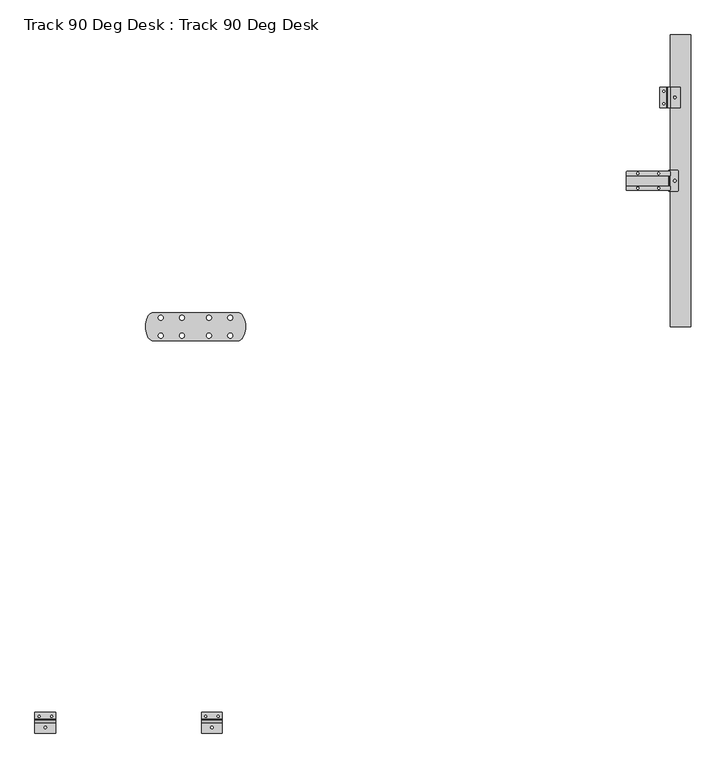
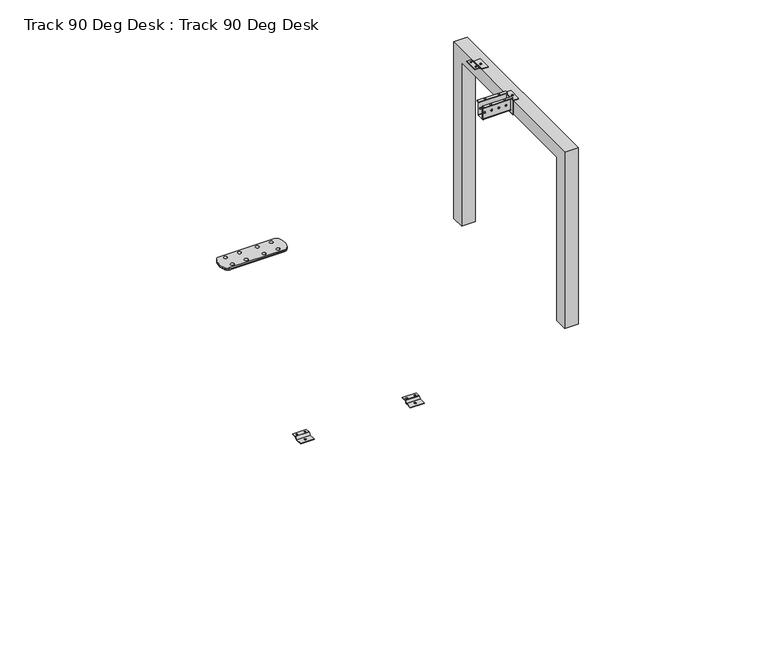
"""IFC4 building model written with IfcOpenShell, lengths in millimetres: furniture geometry, Track 90 Deg Desk : Track 90 Deg Desk."""

from ifc_helpers import new_model, si_unit, point, frame, frame_2d, origin, place, context, project, spatial, polyline, circle_curve, ellipse_curve, trimmed, segment, composite_curve, outline, extrude, source, transform, mapped, element, save
from ifc_brep_helpers import plane_surface, cylinder_surface, revolved_surface, advanced_brep


def track_90_deg_desk_track_90_deg_desk_8e9b47cc(model_context):
    return source(origin(), model_context, "Body", "SolidModel", [
        advanced_brep(
        [(611.732353, -733.9476373, 694.9999998), (623.8216657, -726.2167766, 694.9999998), (623.8216657, -673.7832234, 694.9999998), (611.732353, -666.0523627, 694.9999998), (409.386168, -666.0523627, 694.9999998), (397.2968553, -673.7832234, 694.9999998), (397.2968553, -726.2167766, 694.9999998), (409.386168, -733.9476373, 694.9999998), (433.0592519, -721.4999958, 694.9999998), (421.0592519, -721.4999958, 694.9999998), (433.0592519, -678.5000013, 694.9999998), (421.0592519, -678.5000013, 694.9999998), (484.0084742, -721.4999958, 694.9999998), (472.0084742, -721.4999958, 694.9999998), (484.0084742, -678.5000013, 694.9999998), (472.0084742, -678.5000013, 694.9999998), (549.0084674, -721.4999958, 694.9999998), (537.0084674, -721.4999958, 694.9999998), (549.0084674, -678.5000013, 694.9999998), (537.0084674, -678.5000013, 694.9999998), (600.0084794, -721.4999958, 694.9999998), (588.0084794, -721.4999958, 694.9999998), (600.0084794, -678.5000013, 694.9999998), (588.0084794, -678.5000013, 694.9999998), (619.4412132, -723.8060431, 684.4999866), (611.3816714, -728.9599502, 684.4999866), (409.7368496, -728.9599502, 684.4999866), (401.6773078, -723.8060431, 684.4999866), (401.6773078, -676.1939569, 684.4999866), (409.7368496, -671.0400498, 684.4999866), (611.3816714, -671.0400498, 684.4999866), (619.4412132, -676.1939569, 684.4999866), (433.0592519, -721.4999958, 684.4999866), (421.0592519, -721.4999958, 684.4999866), (433.0592519, -678.5000013, 684.4999866), (421.0592519, -678.5000013, 684.4999866), (484.0084742, -721.4999958, 684.4999866), (472.0084742, -721.4999958, 684.4999866), (484.0084742, -678.5000013, 684.4999866), (472.0084742, -678.5000013, 684.4999866), (549.0084674, -721.4999958, 684.4999866), (537.0084674, -721.4999958, 684.4999866), (549.0084674, -678.5000013, 684.4999866), (537.0084674, -678.5000013, 684.4999866), (600.0084794, -721.4999958, 684.4999866), (588.0084794, -721.4999958, 684.4999866), (600.0084794, -678.5000013, 684.4999866), (588.0084794, -678.5000013, 684.4999866), (611.732353, -733.9476373, 689.4999866), (623.8216657, -726.2167766, 689.4999866), (623.8216657, -673.7832234, 689.4999866), (611.732353, -666.0523627, 689.4999866), (409.386168, -666.0523627, 689.4999866), (397.2968553, -673.7832234, 689.4999866), (397.2968553, -726.2167766, 689.4999866), (409.386168, -733.9476373, 689.4999866)],
        [
            (0, 1, circle_curve(frame((610.6803083, -718.984576, 694.9999998), z_axis=(0.0, 0.0, 1.0), x_axis=(-1.0, 0.0, 0.0)), 15.0)),
            (1, 2, circle_curve(frame((576.1841551, -700.0, 694.9999998), z_axis=(0.0, 0.0, 1.0), x_axis=(-1.0, 0.0, 0.0)), 54.3751027)),
            (2, 3, circle_curve(frame((610.6803083, -681.015424, 694.9999998), z_axis=(0.0, 0.0, 1.0), x_axis=(-1.0, 0.0, 0.0)), 15.0)),
            (3, 4, circle_curve(frame((510.5592605, -2105.0208773, 694.9999998), z_axis=(0.0, 0.0, 1.0), x_axis=(-1.0, 0.0, 0.0)), 1442.5208423)),
            (4, 5, circle_curve(frame((410.4382127, -681.015424, 694.9999998), z_axis=(0.0, 0.0, 1.0), x_axis=(-1.0, 0.0, 0.0)), 15.0)),
            (5, 6, circle_curve(frame((444.9343659, -700.0, 694.9999998), z_axis=(0.0, 0.0, 1.0), x_axis=(-1.0, 0.0, 0.0)), 54.3751027)),
            (6, 7, circle_curve(frame((410.4382127, -718.984576, 694.9999998), z_axis=(0.0, 0.0, 1.0), x_axis=(-1.0, 0.0, 0.0)), 15.0)),
            (7, 0, circle_curve(frame((510.5592605, 705.0208773, 694.9999998), z_axis=(0.0, 0.0, 1.0), x_axis=(-1.0, 0.0, 0.0)), 1442.5208423)),
            (8, 9, circle_curve(frame((427.0592519, -721.4999958, 694.9999998), z_axis=(0.0, 0.0, -1.0), x_axis=(-1.0, 0.0, 0.0)), 6.0)),
            (9, 8, circle_curve(frame((427.0592519, -721.4999958, 694.9999998), z_axis=(0.0, 0.0, -1.0), x_axis=(-1.0, 0.0, 0.0)), 6.0)),
            (10, 11, circle_curve(frame((427.0592519, -678.5000013, 694.9999998), z_axis=(0.0, 0.0, -1.0), x_axis=(-1.0, 0.0, 0.0)), 6.0)),
            (11, 10, circle_curve(frame((427.0592519, -678.5000013, 694.9999998), z_axis=(0.0, 0.0, -1.0), x_axis=(-1.0, 0.0, 0.0)), 6.0)),
            (12, 13, circle_curve(frame((478.0084742, -721.4999958, 694.9999998), z_axis=(0.0, 0.0, -1.0), x_axis=(-1.0, 0.0, 0.0)), 6.0)),
            (13, 12, circle_curve(frame((478.0084742, -721.4999958, 694.9999998), z_axis=(0.0, 0.0, -1.0), x_axis=(-1.0, 0.0, 0.0)), 6.0)),
            (14, 15, circle_curve(frame((478.0084742, -678.5000013, 694.9999998), z_axis=(0.0, 0.0, -1.0), x_axis=(-1.0, 0.0, 0.0)), 6.0)),
            (15, 14, circle_curve(frame((478.0084742, -678.5000013, 694.9999998), z_axis=(0.0, 0.0, -1.0), x_axis=(-1.0, 0.0, 0.0)), 6.0)),
            (16, 17, circle_curve(frame((543.0084674, -721.4999958, 694.9999998), z_axis=(0.0, 0.0, -1.0), x_axis=(-1.0, 0.0, 0.0)), 6.0)),
            (17, 16, circle_curve(frame((543.0084674, -721.4999958, 694.9999998), z_axis=(0.0, 0.0, -1.0), x_axis=(-1.0, 0.0, 0.0)), 6.0)),
            (18, 19, circle_curve(frame((543.0084674, -678.5000013, 694.9999998), z_axis=(0.0, 0.0, -1.0), x_axis=(-1.0, 0.0, 0.0)), 6.0)),
            (19, 18, circle_curve(frame((543.0084674, -678.5000013, 694.9999998), z_axis=(0.0, 0.0, -1.0), x_axis=(-1.0, 0.0, 0.0)), 6.0)),
            (20, 21, circle_curve(frame((594.0084794, -721.4999958, 694.9999998), z_axis=(0.0, 0.0, -1.0), x_axis=(-1.0, 0.0, 0.0)), 6.0)),
            (21, 20, circle_curve(frame((594.0084794, -721.4999958, 694.9999998), z_axis=(0.0, 0.0, -1.0), x_axis=(-1.0, 0.0, 0.0)), 6.0)),
            (22, 23, circle_curve(frame((594.0084794, -678.5000013, 694.9999998), z_axis=(0.0, 0.0, -1.0), x_axis=(-1.0, 0.0, 0.0)), 6.0)),
            (23, 22, circle_curve(frame((594.0084794, -678.5000013, 694.9999998), z_axis=(0.0, 0.0, -1.0), x_axis=(-1.0, 0.0, 0.0)), 6.0)),
            (24, 25, circle_curve(frame((610.6803083, -718.984576, 684.4999866), z_axis=(0.0, 0.0, -1.0), x_axis=(0.0701363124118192, -0.9975374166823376, 0.0)), 10.0)),
            (25, 26, circle_curve(frame((510.5592605, 705.0208773, 684.4999866), z_axis=(0.0, 0.0, -1.0), x_axis=(-0.0701363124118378, -0.9975374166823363, 0.0)), 1437.5208423)),
            (26, 27, circle_curve(frame((410.4382127, -718.984576, 684.4999866), z_axis=(0.0, 0.0, -1.0), x_axis=(-0.8760904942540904, -0.4821467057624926, 0.0)), 10.0)),
            (27, 28, circle_curve(frame((444.9343659, -700.0, 684.4999866), z_axis=(0.0, 0.0, -1.0), x_axis=(-0.8760904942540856, 0.4821467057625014, 0.0)), 49.3751027)),
            (28, 29, circle_curve(frame((410.4382127, -681.015424, 684.4999866), z_axis=(0.0, 0.0, -1.0), x_axis=(-0.07013631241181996, 0.9975374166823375, 0.0)), 10.0)),
            (29, 30, circle_curve(frame((510.5592605, -2105.0208773, 684.4999866), z_axis=(0.0, 0.0, -1.0), x_axis=(0.07013631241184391, 0.997537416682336, 0.0)), 1437.5208423)),
            (30, 31, circle_curve(frame((610.6803083, -681.015424, 684.4999866), z_axis=(0.0, 0.0, -1.0), x_axis=(0.8760904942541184, 0.4821467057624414, 0.0)), 10.0)),
            (31, 24, circle_curve(frame((576.1841551, -700.0, 684.4999866), z_axis=(0.0, 0.0, -1.0), x_axis=(0.8760904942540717, -0.4821467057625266, 0.0)), 49.3751027)),
            (32, 33, circle_curve(frame((427.0592519, -721.4999958, 684.4999866), z_axis=(0.0, 0.0, 1.0), x_axis=(-1.0, 0.0, 0.0)), 6.0)),
            (33, 32, circle_curve(frame((427.0592519, -721.4999958, 684.4999866), z_axis=(0.0, 0.0, 1.0), x_axis=(-1.0, 0.0, 0.0)), 6.0)),
            (34, 35, circle_curve(frame((427.0592519, -678.5000013, 684.4999866), z_axis=(0.0, 0.0, 1.0), x_axis=(-1.0, 0.0, 0.0)), 6.0)),
            (35, 34, circle_curve(frame((427.0592519, -678.5000013, 684.4999866), z_axis=(0.0, 0.0, 1.0), x_axis=(-1.0, 0.0, 0.0)), 6.0)),
            (36, 37, circle_curve(frame((478.0084742, -721.4999958, 684.4999866), z_axis=(0.0, 0.0, 1.0), x_axis=(-1.0, 0.0, 0.0)), 6.0)),
            (37, 36, circle_curve(frame((478.0084742, -721.4999958, 684.4999866), z_axis=(0.0, 0.0, 1.0), x_axis=(-1.0, 0.0, 0.0)), 6.0)),
            (38, 39, circle_curve(frame((478.0084742, -678.5000013, 684.4999866), z_axis=(0.0, 0.0, 1.0), x_axis=(-1.0, 0.0, 0.0)), 6.0)),
            (39, 38, circle_curve(frame((478.0084742, -678.5000013, 684.4999866), z_axis=(0.0, 0.0, 1.0), x_axis=(-1.0, 0.0, 0.0)), 6.0)),
            (40, 41, circle_curve(frame((543.0084674, -721.4999958, 684.4999866), z_axis=(0.0, 0.0, 1.0), x_axis=(-1.0, 0.0, 0.0)), 6.0)),
            (41, 40, circle_curve(frame((543.0084674, -721.4999958, 684.4999866), z_axis=(0.0, 0.0, 1.0), x_axis=(-1.0, 0.0, 0.0)), 6.0)),
            (42, 43, circle_curve(frame((543.0084674, -678.5000013, 684.4999866), z_axis=(0.0, 0.0, 1.0), x_axis=(-1.0, 0.0, 0.0)), 6.0)),
            (43, 42, circle_curve(frame((543.0084674, -678.5000013, 684.4999866), z_axis=(0.0, 0.0, 1.0), x_axis=(-1.0, 0.0, 0.0)), 6.0)),
            (44, 45, circle_curve(frame((594.0084794, -721.4999958, 684.4999866), z_axis=(0.0, 0.0, 1.0), x_axis=(-1.0, 0.0, 0.0)), 6.0)),
            (45, 44, circle_curve(frame((594.0084794, -721.4999958, 684.4999866), z_axis=(0.0, 0.0, 1.0), x_axis=(-1.0, 0.0, 0.0)), 6.0)),
            (46, 47, circle_curve(frame((594.0084794, -678.5000013, 684.4999866), z_axis=(0.0, 0.0, 1.0), x_axis=(-1.0, 0.0, 0.0)), 6.0)),
            (47, 46, circle_curve(frame((594.0084794, -678.5000013, 684.4999866), z_axis=(0.0, 0.0, 1.0), x_axis=(-1.0, 0.0, 0.0)), 6.0)),
            (0, 48),
            (48, 49, circle_curve(frame((610.6803083, -718.984576, 689.4999866), z_axis=(0.0, 0.0, 1.0), x_axis=(-1.0, 0.0, 0.0)), 15.0)),
            (49, 1),
            (49, 50, circle_curve(frame((576.1841551, -700.0, 689.4999866), z_axis=(0.0, 0.0, 1.0), x_axis=(-1.0, 0.0, 0.0)), 54.3751027)),
            (50, 2),
            (50, 51, circle_curve(frame((610.6803083, -681.015424, 689.4999866), z_axis=(0.0, 0.0, 1.0), x_axis=(-1.0, 0.0, 0.0)), 15.0)),
            (51, 3),
            (51, 52, circle_curve(frame((510.5592605, -2105.0208773, 689.4999866), z_axis=(0.0, 0.0, 1.0), x_axis=(-1.0, 0.0, 0.0)), 1442.5208423)),
            (52, 4),
            (52, 53, circle_curve(frame((410.4382127, -681.015424, 689.4999866), z_axis=(0.0, 0.0, 1.0), x_axis=(-1.0, 0.0, 0.0)), 15.0)),
            (53, 5),
            (53, 54, circle_curve(frame((444.9343659, -700.0, 689.4999866), z_axis=(0.0, 0.0, 1.0), x_axis=(-1.0, 0.0, 0.0)), 54.3751027)),
            (54, 6),
            (54, 55, circle_curve(frame((410.4382127, -718.984576, 689.4999866), z_axis=(0.0, 0.0, 1.0), x_axis=(-1.0, 0.0, 0.0)), 15.0)),
            (55, 7),
            (55, 48, circle_curve(frame((510.5592605, 705.0208773, 689.4999866), z_axis=(0.0, 0.0, 1.0), x_axis=(-1.0, 0.0, 0.0)), 1442.5208423)),
            (8, 32),
            (33, 9),
            (10, 34),
            (35, 11),
            (12, 36),
            (37, 13),
            (14, 38),
            (39, 15),
            (16, 40),
            (41, 17),
            (18, 42),
            (43, 19),
            (20, 44),
            (45, 21),
            (22, 46),
            (47, 23),
            (24, 49, circle_curve(frame((619.4412132, -723.8060431, 689.4999866), z_axis=(-0.48214670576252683, -0.8760904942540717, 0.0), x_axis=(0.8760904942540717, -0.48214670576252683, 0.0)), 5.0)),
            (48, 25, circle_curve(frame((611.3816714, -728.9599502, 689.4999866), z_axis=(0.9975374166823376, 0.0701363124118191, 0.0), x_axis=(0.0701363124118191, -0.9975374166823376, 0.0)), 5.0)),
            (31, 50, circle_curve(frame((619.4412132, -676.1939569, 689.4999866), z_axis=(0.4821467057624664, -0.8760904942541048, 0.0), x_axis=(0.8760904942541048, 0.4821467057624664, 0.0)), 5.0)),
            (30, 51, circle_curve(frame((611.3816714, -671.0400498, 689.4999866), z_axis=(0.9975374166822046, -0.07013631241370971, 0.0), x_axis=(0.07013631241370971, 0.9975374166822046, 0.0)), 5.0)),
            (29, 52, circle_curve(frame((409.7368496, -671.0400498, 689.4999866), z_axis=(0.997537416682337, 0.0701363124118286, 0.0), x_axis=(-0.0701363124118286, 0.997537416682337, 0.0)), 5.0)),
            (28, 53, circle_curve(frame((401.6773078, -676.1939569, 689.4999866), z_axis=(0.4821467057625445, 0.8760904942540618, 0.0), x_axis=(-0.8760904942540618, 0.4821467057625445, 0.0)), 5.0)),
            (27, 54, circle_curve(frame((401.6773078, -723.8060431, 689.4999866), z_axis=(-0.48214670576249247, 0.8760904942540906, 0.0), x_axis=(-0.8760904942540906, -0.48214670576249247, 0.0)), 5.0)),
            (26, 55, circle_curve(frame((409.7368496, -728.9599502, 689.4999866), z_axis=(-0.9975374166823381, 0.07013631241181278, 0.0), x_axis=(-0.07013631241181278, -0.9975374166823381, 0.0)), 5.0)),
        ],
        [
            plane_surface(frame((595.6803083, -718.984576, 694.9999998), z_axis=(0.0, 0.0, 1.0), x_axis=(0.0, -1.0, 0.0))),
            plane_surface(frame((595.6803083, -718.984576, 684.4999866), z_axis=(0.0, 0.0, -1.0), x_axis=(0.0, 1.0, 0.0))),
            cylinder_surface(frame((610.6803083, -718.984576, 684.4999866), z_axis=(0.0, 0.0, 1.0), x_axis=(-1.0, 0.0, 0.0)), 15.0),
            cylinder_surface(frame((576.1841551, -700.0, 684.4999866), z_axis=(0.0, 0.0, 1.0), x_axis=(-1.0, 0.0, 0.0)), 54.3751027),
            cylinder_surface(frame((610.6803083, -681.015424, 684.4999866), z_axis=(0.0, 0.0, 1.0), x_axis=(-1.0, 0.0, 0.0)), 15.0),
            cylinder_surface(frame((510.5592605, -2105.0208773, 684.4999866), z_axis=(0.0, 0.0, 1.0), x_axis=(-1.0, 0.0, 0.0)), 1442.5208423),
            cylinder_surface(frame((410.4382127, -681.015424, 684.4999866), z_axis=(0.0, 0.0, 1.0), x_axis=(-1.0, 0.0, 0.0)), 15.0),
            cylinder_surface(frame((444.9343659, -700.0, 684.4999866), z_axis=(0.0, 0.0, 1.0), x_axis=(-1.0, 0.0, 0.0)), 54.3751027),
            cylinder_surface(frame((410.4382127, -718.984576, 684.4999866), z_axis=(0.0, 0.0, 1.0), x_axis=(-1.0, 0.0, 0.0)), 15.0),
            cylinder_surface(frame((510.5592605, 705.0208773, 684.4999866), z_axis=(0.0, 0.0, 1.0), x_axis=(-1.0, 0.0, 0.0)), 1442.5208423),
            revolved_surface(polyline([(421.0592519, -721.4999958, 684.4999866), (421.0592519, -721.4999958, 694.9999998)]), (427.0592519, -721.4999958, -2e-05), (0.0, 0.0, -1.0)),
            revolved_surface(polyline([(421.0592519, -678.5000013, 684.4999866), (421.0592519, -678.5000013, 694.9999998)]), (427.0592519, -678.5000013, -2e-05), (0.0, 0.0, -1.0)),
            revolved_surface(polyline([(472.0084742, -721.4999958, 684.4999866), (472.0084742, -721.4999958, 694.9999998)]), (478.0084742, -721.4999958, -2e-05), (0.0, 0.0, -1.0)),
            revolved_surface(polyline([(472.0084742, -678.5000013, 684.4999866), (472.0084742, -678.5000013, 694.9999998)]), (478.0084742, -678.5000013, -2e-05), (0.0, 0.0, -1.0)),
            revolved_surface(polyline([(537.0084674, -721.4999958, 684.4999866), (537.0084674, -721.4999958, 694.9999998)]), (543.0084674, -721.4999958, -2e-05), (0.0, 0.0, -1.0)),
            revolved_surface(polyline([(537.0084674, -678.5000013, 684.4999866), (537.0084674, -678.5000013, 694.9999998)]), (543.0084674, -678.5000013, -2e-05), (0.0, 0.0, -1.0)),
            revolved_surface(polyline([(588.0084794, -721.4999958, 684.4999866), (588.0084794, -721.4999958, 694.9999998)]), (594.0084794, -721.4999958, -2e-05), (0.0, 0.0, -1.0)),
            revolved_surface(polyline([(588.0084794, -678.5000013, 684.4999866), (588.0084794, -678.5000013, 694.9999998)]), (594.0084794, -678.5000013, -2e-05), (0.0, 0.0, -1.0)),
            revolved_surface(trimmed(ellipse_curve(frame((611.3816714, -728.9599502, 689.4999866), z_axis=(-0.9975374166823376, -0.0701363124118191, 0.0), x_axis=(0.0701363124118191, -0.9975374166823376, 0.0)), 5.0, 5.0), [point((611.3816714, -728.9599502, 684.4999866))], [point((611.732353, -733.9476373, 689.4999866))], True, "CARTESIAN"), (610.6803083, -718.984576, 684.4999866), (0.0, 0.0, 1.0)),
            revolved_surface(trimmed(ellipse_curve(frame((619.4412132, -723.8060431, 689.4999866), z_axis=(-0.48214670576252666, -0.8760904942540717, 0.0), x_axis=(0.8760904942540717, -0.48214670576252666, 0.0)), 5.0, 5.0), [point((619.4412132, -723.8060431, 684.4999866))], [point((623.8216657, -726.2167766, 689.4999866))], True, "CARTESIAN"), (576.1841551, -700.0, 684.4999866), (0.0, 0.0, 1.0)),
            revolved_surface(trimmed(ellipse_curve(frame((619.4412132, -676.1939569, 689.4999866), z_axis=(0.48214670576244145, -0.8760904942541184, 0.0), x_axis=(0.8760904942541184, 0.48214670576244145, 0.0)), 5.0, 5.0), [point((619.4412132, -676.1939569, 684.4999866))], [point((623.8216657, -673.7832234, 689.4999866))], True, "CARTESIAN"), (610.6803083, -681.015424, 684.4999866), (0.0, 0.0, 1.0)),
            revolved_surface(trimmed(ellipse_curve(frame((611.3816714, -671.0400498, 689.4999866), z_axis=(0.997537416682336, -0.07013631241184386, 0.0), x_axis=(0.07013631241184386, 0.997537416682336, 0.0)), 5.0, 5.0), [point((611.3816714, -671.0400498, 684.4999866))], [point((611.732353, -666.0523627, 689.4999866))], True, "CARTESIAN"), (510.5592605, -2105.0208773, 684.4999866), (0.0, 0.0, 1.0)),
            revolved_surface(trimmed(ellipse_curve(frame((409.7368496, -671.0400498, 689.4999866), z_axis=(0.9975374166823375, 0.07013631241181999, 0.0), x_axis=(-0.07013631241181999, 0.9975374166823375, 0.0)), 5.0, 5.0), [point((409.7368496, -671.0400498, 684.4999866))], [point((409.386168, -666.0523627, 689.4999866))], True, "CARTESIAN"), (410.4382127, -681.015424, 684.4999866), (0.0, 0.0, 1.0)),
            revolved_surface(trimmed(ellipse_curve(frame((401.6773078, -676.1939569, 689.4999866), z_axis=(0.4821467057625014, 0.8760904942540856, 0.0), x_axis=(-0.8760904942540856, 0.4821467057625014, 0.0)), 5.0, 5.0), [point((401.6773078, -676.1939569, 684.4999866))], [point((397.2968553, -673.7832234, 689.4999866))], True, "CARTESIAN"), (444.9343659, -700.0, 684.4999866), (0.0, 0.0, 1.0)),
            revolved_surface(trimmed(ellipse_curve(frame((401.6773078, -723.8060431, 689.4999866), z_axis=(-0.4821467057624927, 0.8760904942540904, 0.0), x_axis=(-0.8760904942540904, -0.4821467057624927, 0.0)), 5.0, 5.0), [point((401.6773078, -723.8060431, 684.4999866))], [point((397.2968553, -726.2167766, 689.4999866))], True, "CARTESIAN"), (410.4382127, -718.984576, 684.4999866), (0.0, 0.0, 1.0)),
            revolved_surface(trimmed(ellipse_curve(frame((409.7368496, -728.9599502, 689.4999866), z_axis=(-0.9975374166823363, 0.07013631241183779, 0.0), x_axis=(-0.07013631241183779, -0.9975374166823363, 0.0)), 5.0, 5.0), [point((409.7368496, -728.9599502, 684.4999866))], [point((409.386168, -733.9476373, 689.4999866))], True, "CARTESIAN"), (510.5592605, 705.0208773, 684.4999866), (0.0, 0.0, 1.0)),
        ],
        [
            (0, [[1, 2, 3, 4, 5, 6, 7, 8], [9, 10], [11, 12], [13, 14], [15, 16], [17, 18], [19, 20], [21, 22], [23, 24]]),
            (1, [[25, 26, 27, 28, 29, 30, 31, 32], [33, 34], [35, 36], [37, 38], [39, 40], [41, 42], [43, 44], [45, 46], [47, 48]]),
            (2, [[-1, 49, 50, 51]]),
            (3, [[-2, -51, 52, 53]]),
            (4, [[-3, -53, 54, 55]]),
            (5, [[-4, -55, 56, 57]]),
            (6, [[-5, -57, 58, 59]]),
            (7, [[-6, -59, 60, 61]]),
            (8, [[-7, -61, 62, 63]]),
            (9, [[-8, -63, 64, -49]]),
            (10, [[-9, 65, -34, 66]]),
            (10, [[-10, -66, -33, -65]]),
            (11, [[-11, 67, -36, 68]]),
            (11, [[-12, -68, -35, -67]]),
            (12, [[-13, 69, -38, 70]]),
            (12, [[-14, -70, -37, -69]]),
            (13, [[-15, 71, -40, 72]]),
            (13, [[-16, -72, -39, -71]]),
            (14, [[-17, 73, -42, 74]]),
            (14, [[-18, -74, -41, -73]]),
            (15, [[-19, 75, -44, 76]]),
            (15, [[-20, -76, -43, -75]]),
            (16, [[-21, 77, -46, 78]]),
            (16, [[-22, -78, -45, -77]]),
            (17, [[-23, 79, -48, 80]]),
            (17, [[-24, -80, -47, -79]]),
            (18, [[81, -50, 82, -25]]),
            (19, [[-81, -32, 83, -52]]),
            (20, [[-83, -31, 84, -54]]),
            (21, [[-84, -30, 85, -56]]),
            (22, [[-85, -29, 86, -58]]),
            (23, [[-86, -28, 87, -60]]),
            (24, [[-87, -27, 88, -62]]),
            (25, [[-82, -64, -88, -26]]),
        ],
    ),
        extrude(outline(polyline([(687.4999689, 1650.8242135), (695.0000198, 1642.8242158), (695.0000198, 1641.9957871), (692.9999966, 1641.9957871), (685.5000183, 1649.9957848), (685.5000183, 1650.8242135), (687.4999689, 1650.8242135)])), frame((0.0, -175.0000195, 0.0), z_axis=(0.0, 1.0, 0.0), x_axis=(0.0, 0.0, 1.0)), (0.0, 0.0, 1.0), 50.0000004),
        extrude(outline(polyline([(1624.9999994, -125.0000191), (1641.9957871, -125.0000191), (1641.9957871, -175.0000195), (1624.9999994, -175.0000195), (1624.9999994, -125.0000191)]), holes=[composite_curve([segment(trimmed(circle_curve(frame_2d((1635.0000022, -135.0000265)), 2.4999928), [point((1637.499995, -135.0000265))], [point((1632.5000095, -135.0000265))], True, "CARTESIAN"), True, "CONTINUOUS"), segment(trimmed(circle_curve(frame_2d((1635.0000022, -135.0000265)), 2.4999928), [point((1632.5000095, -135.0000265))], [point((1637.499995, -135.0000265))], True, "CARTESIAN"), True, "CONTINUOUS")], self_intersect=False), composite_curve([segment(trimmed(circle_curve(frame_2d((1635.0000022, -165.0000122)), 2.4999928), [point((1637.499995, -165.0000122))], [point((1632.5000095, -165.0000122))], True, "CARTESIAN"), True, "CONTINUOUS"), segment(trimmed(circle_curve(frame_2d((1635.0000022, -165.0000122)), 2.4999928), [point((1632.5000095, -165.0000122))], [point((1637.499995, -165.0000122))], True, "CARTESIAN"), True, "CONTINUOUS")], self_intersect=False)]), frame((0.0, 0.0, 692.9999966), z_axis=(0.0, 0.0, 1.0), x_axis=(1.0, 0.0, 0.0)), (0.0, 0.0, 1.0), 2.0000233),
        extrude(outline(polyline([(1650.8242135, -125.0000191), (1674.9999998, -125.0000191), (1674.9999998, -175.0000195), (1650.8242135, -175.0000195), (1650.8242135, -125.0000191)]), holes=[composite_curve([segment(trimmed(circle_curve(frame_2d((1661.5000017, -150.0000193)), 2.9999986), [point((1664.5000003, -150.0000193))], [point((1658.5000031, -150.0000193))], True, "CARTESIAN"), True, "CONTINUOUS"), segment(trimmed(circle_curve(frame_2d((1661.5000017, -150.0000193)), 2.9999986), [point((1658.5000031, -150.0000193))], [point((1664.5000003, -150.0000193))], True, "CARTESIAN"), True, "CONTINUOUS")], self_intersect=False)]), frame((0.0, 0.0, 685.5000183), z_axis=(0.0, 0.0, 1.0), x_axis=(1.0, 0.0, 0.0)), (0.0, 0.0, 1.0), 1.9999506),
        extrude(outline(polyline([(-1650.8242135, 687.4999489), (-1642.8242158, 694.9999998), (-1641.9957871, 694.9999998), (-1641.9957871, 692.9999765), (-1649.9957848, 685.4999983), (-1650.8242135, 685.4999983), (-1650.8242135, 687.4999489)])), frame((124.9999956, 0.0, 0.0), z_axis=(1.0, 0.0, 0.0), x_axis=(0.0, 1.0, 0.0)), (0.0, 0.0, 1.0), 50.0000004),
        extrude(outline(polyline([(124.9999956, -1624.9999994), (174.999996, -1624.9999994), (174.999996, -1641.9957871), (124.9999956, -1641.9957871), (124.9999956, -1624.9999994)]), holes=[composite_curve([segment(trimmed(circle_curve(frame_2d((135.000003, -1635.0000022)), 2.4999928), [point((135.000003, -1637.499995))], [point((135.000003, -1632.5000095))], True, "CARTESIAN"), True, "CONTINUOUS"), segment(trimmed(circle_curve(frame_2d((135.000003, -1635.0000022)), 2.4999928), [point((135.000003, -1632.5000095))], [point((135.000003, -1637.499995))], True, "CARTESIAN"), True, "CONTINUOUS")], self_intersect=False), composite_curve([segment(trimmed(circle_curve(frame_2d((164.9999887, -1635.0000022)), 2.4999928), [point((164.9999887, -1637.499995))], [point((164.9999887, -1632.5000095))], True, "CARTESIAN"), True, "CONTINUOUS"), segment(trimmed(circle_curve(frame_2d((164.9999887, -1635.0000022)), 2.4999928), [point((164.9999887, -1632.5000095))], [point((164.9999887, -1637.499995))], True, "CARTESIAN"), True, "CONTINUOUS")], self_intersect=False)]), frame((0.0, 0.0, 692.9999765), z_axis=(0.0, 0.0, 1.0), x_axis=(1.0, 0.0, 0.0)), (0.0, 0.0, 1.0), 2.0000233),
        extrude(outline(polyline([(124.9999956, -1650.8242135), (174.999996, -1650.8242135), (174.999996, -1674.9999998), (124.9999956, -1674.9999998), (124.9999956, -1650.8242135)]), holes=[composite_curve([segment(trimmed(circle_curve(frame_2d((149.9999958, -1661.5000017)), 2.9999986), [point((149.9999958, -1664.5000003))], [point((149.9999958, -1658.5000031))], True, "CARTESIAN"), True, "CONTINUOUS"), segment(trimmed(circle_curve(frame_2d((149.9999958, -1661.5000017)), 2.9999986), [point((149.9999958, -1658.5000031))], [point((149.9999958, -1664.5000003))], True, "CARTESIAN"), True, "CONTINUOUS")], self_intersect=False)]), frame((0.0, 0.0, 685.4999983), z_axis=(0.0, 0.0, 1.0), x_axis=(1.0, 0.0, 0.0)), (0.0, 0.0, 1.0), 1.9999506),
        extrude(outline(polyline([(-1650.8242135, 687.4999489), (-1642.8242158, 694.9999998), (-1641.9957871, 694.9999998), (-1641.9957871, 692.9999765), (-1649.9957848, 685.4999983), (-1650.8242135, 685.4999983), (-1650.8242135, 687.4999489)])), frame((525.000004, 0.0, 0.0), z_axis=(1.0, 0.0, 0.0), x_axis=(0.0, 1.0, 0.0)), (0.0, 0.0, 1.0), 50.0000004),
        extrude(outline(polyline([(575.0000044, -1624.9999994), (575.0000044, -1641.9957871), (525.000004, -1641.9957871), (525.000004, -1624.9999994), (575.0000044, -1624.9999994)]), holes=[composite_curve([segment(trimmed(circle_curve(frame_2d((564.999997, -1635.0000022)), 2.4999928), [point((564.999997, -1637.499995))], [point((564.999997, -1632.5000095))], True, "CARTESIAN"), True, "CONTINUOUS"), segment(trimmed(circle_curve(frame_2d((564.999997, -1635.0000022)), 2.4999928), [point((564.999997, -1632.5000095))], [point((564.999997, -1637.499995))], True, "CARTESIAN"), True, "CONTINUOUS")], self_intersect=False), composite_curve([segment(trimmed(circle_curve(frame_2d((535.0000113, -1635.0000022)), 2.4999928), [point((535.0000113, -1637.499995))], [point((535.0000113, -1632.5000095))], True, "CARTESIAN"), True, "CONTINUOUS"), segment(trimmed(circle_curve(frame_2d((535.0000113, -1635.0000022)), 2.4999928), [point((535.0000113, -1632.5000095))], [point((535.0000113, -1637.499995))], True, "CARTESIAN"), True, "CONTINUOUS")], self_intersect=False)]), frame((0.0, 0.0, 692.9999765), z_axis=(0.0, 0.0, 1.0), x_axis=(1.0, 0.0, 0.0)), (0.0, 0.0, 1.0), 2.0000233),
        extrude(outline(polyline([(575.0000044, -1650.8242135), (575.0000044, -1674.9999998), (525.000004, -1674.9999998), (525.000004, -1650.8242135), (575.0000044, -1650.8242135)]), holes=[composite_curve([segment(trimmed(circle_curve(frame_2d((550.0000042, -1661.5000017)), 2.9999986), [point((550.0000042, -1664.5000003))], [point((550.0000042, -1658.5000031))], True, "CARTESIAN"), True, "CONTINUOUS"), segment(trimmed(circle_curve(frame_2d((550.0000042, -1661.5000017)), 2.9999986), [point((550.0000042, -1658.5000031))], [point((550.0000042, -1664.5000003))], True, "CARTESIAN"), True, "CONTINUOUS")], self_intersect=False)]), frame((0.0, 0.0, 685.4999983), z_axis=(0.0, 0.0, 1.0), x_axis=(1.0, 0.0, 0.0)), (0.0, 0.0, 1.0), 1.9999506),
        extrude(outline(composite_curve([segment(trimmed(circle_curve(frame_2d((1648.5331849, -328.9043021)), 1.4667785), [point((1648.5331849, -327.4375236))], [point((1649.9999634, -328.9043021))], False, "CARTESIAN"), True, "CONTINUOUS"), segment(polyline([(1649.9999634, -328.9043021), (1649.9999634, -337.4374946), (1544.9999589, -337.4374946), (1544.9999589, -328.9063713)]), True, "CONTINUOUS"), segment(trimmed(circle_curve(frame_2d((1546.4688066, -328.9063713)), 1.4688476), [point((1544.9999589, -328.9063713))], [point((1546.4688066, -327.4375236))], False, "CARTESIAN"), True, "CONTINUOUS"), segment(polyline([(1546.4688066, -327.4375236), (1648.5331849, -327.4375236)]), True, "CONTINUOUS")], self_intersect=False), holes=[composite_curve([segment(trimmed(circle_curve(frame_2d((1622.4999614, -332.4375091)), 2.5000018), [point((1624.9999632, -332.4375091))], [point((1619.9999595, -332.4375091))], True, "CARTESIAN"), True, "CONTINUOUS"), segment(trimmed(circle_curve(frame_2d((1622.4999614, -332.4375091)), 2.5000018), [point((1619.9999595, -332.4375091))], [point((1624.9999632, -332.4375091))], True, "CARTESIAN"), True, "CONTINUOUS")], self_intersect=False), composite_curve([segment(trimmed(circle_curve(frame_2d((1572.499961, -332.4375091)), 2.5000018), [point((1574.9999628, -332.4375091))], [point((1569.9999591, -332.4375091))], True, "CARTESIAN"), True, "CONTINUOUS"), segment(trimmed(circle_curve(frame_2d((1572.499961, -332.4375091)), 2.5000018), [point((1569.9999591, -332.4375091))], [point((1574.9999628, -332.4375091))], True, "CARTESIAN"), True, "CONTINUOUS")], self_intersect=False)]), frame((0.0, 0.0, 692.5000071), z_axis=(0.0, 0.0, 1.0), x_axis=(1.0, 0.0, 0.0)), (0.0, 0.0, 1.0), 2.4999928),
        extrude(outline(composite_curve([segment(polyline([(1648.5331849, -372.5624582), (1546.4688066, -372.5624582)]), True, "CONTINUOUS"), segment(trimmed(circle_curve(frame_2d((1546.4688066, -371.0936106)), 1.4688476), [point((1546.4688066, -372.5624582))], [point((1544.9999589, -371.0936106))], False, "CARTESIAN"), True, "CONTINUOUS"), segment(polyline([(1544.9999589, -371.0936106), (1544.9999589, -362.5624872), (1649.9999634, -362.5624872), (1649.9999634, -371.0956797)]), True, "CONTINUOUS"), segment(trimmed(circle_curve(frame_2d((1648.5331849, -371.0956797)), 1.4667785), [point((1649.9999634, -371.0956797))], [point((1648.5331849, -372.5624582))], False, "CARTESIAN"), True, "CONTINUOUS")], self_intersect=False), holes=[composite_curve([segment(trimmed(circle_curve(frame_2d((1622.4999614, -367.5624727)), 2.5000018), [point((1624.9999632, -367.5624727))], [point((1619.9999595, -367.5624727))], True, "CARTESIAN"), True, "CONTINUOUS"), segment(trimmed(circle_curve(frame_2d((1622.4999614, -367.5624727)), 2.5000018), [point((1619.9999595, -367.5624727))], [point((1624.9999632, -367.5624727))], True, "CARTESIAN"), True, "CONTINUOUS")], self_intersect=False), composite_curve([segment(trimmed(circle_curve(frame_2d((1572.499961, -367.5624727)), 2.5000018), [point((1574.9999628, -367.5624727))], [point((1569.9999591, -367.5624727))], True, "CARTESIAN"), True, "CONTINUOUS"), segment(trimmed(circle_curve(frame_2d((1572.499961, -367.5624727)), 2.5000018), [point((1569.9999591, -367.5624727))], [point((1574.9999628, -367.5624727))], True, "CARTESIAN"), True, "CONTINUOUS")], self_intersect=False)]), frame((0.0, 0.0, 692.5000071), z_axis=(0.0, 0.0, 1.0), x_axis=(1.0, 0.0, 0.0)), (0.0, 0.0, 1.0), 2.4999928),
        extrude(outline(composite_curve([segment(polyline([(-337.4374946, 644.9999994), (-337.4374946, 645.9999994), (-336.174127, 645.9999994), (-336.174127, 644.2418639)]), True, "CONTINUOUS"), segment(trimmed(circle_curve(frame_2d((-336.674127, 644.2418639)), 0.5), [point((-336.174127, 644.2418639))], [point((-336.674127, 643.7418639))], False, "CARTESIAN"), True, "CONTINUOUS"), segment(polyline([(-336.674127, 643.7418639), (-363.32506, 643.7418639)]), True, "CONTINUOUS"), segment(trimmed(circle_curve(frame_2d((-363.32506, 644.2426588)), 0.5007949), [point((-363.32506, 643.7418639))], [point((-363.8258548, 644.2426588))], False, "CARTESIAN"), True, "CONTINUOUS"), segment(polyline([(-363.8258548, 644.2426588), (-363.8258548, 645.9999994), (-362.5624872, 645.9999994), (-362.5624872, 644.9999994), (-337.4374946, 644.9999994)]), True, "CONTINUOUS")], self_intersect=False)), frame((1544.9999589, 0.0, 0.0), z_axis=(1.0, 0.0, 0.0), x_axis=(0.0, 1.0, 0.0)), (0.0, 0.0, 1.0), 102.5000026),
        extrude(outline(polyline([(645.9999994, 1544.9999589), (645.9999994, 1647.4999615), (687.999991, 1647.4999615), (687.999991, 1649.9999634), (692.5000071, 1649.9999634), (692.5000071, 1544.9999589), (645.9999994, 1544.9999589)]), holes=[composite_curve([segment(trimmed(circle_curve(frame_2d((668.1207902, 1629.9999669)), 2.9999986), [point((668.1207902, 1632.9999654))], [point((668.1207902, 1626.9999683))], True, "CARTESIAN"), True, "CONTINUOUS"), segment(trimmed(circle_curve(frame_2d((668.1207902, 1629.9999669)), 2.9999986), [point((668.1207902, 1626.9999683))], [point((668.1207902, 1632.9999654))], True, "CARTESIAN"), True, "CONTINUOUS")], self_intersect=False), composite_curve([segment(trimmed(circle_curve(frame_2d((668.1207902, 1604.0058793)), 2.9999986), [point((668.1207902, 1607.0058779))], [point((668.1207902, 1601.0058808))], True, "CARTESIAN"), True, "CONTINUOUS"), segment(trimmed(circle_curve(frame_2d((668.1207902, 1604.0058793)), 2.9999986), [point((668.1207902, 1601.0058808))], [point((668.1207902, 1607.0058779))], True, "CARTESIAN"), True, "CONTINUOUS")], self_intersect=False), composite_curve([segment(trimmed(circle_curve(frame_2d((668.1207902, 1578.0117918)), 2.9999986), [point((668.1207902, 1575.0117933))], [point((668.1207902, 1581.0117904))], True, "CARTESIAN"), True, "CONTINUOUS"), segment(trimmed(circle_curve(frame_2d((668.1207902, 1578.0117918)), 2.9999986), [point((668.1207902, 1581.0117904))], [point((668.1207902, 1575.0117933))], True, "CARTESIAN"), True, "CONTINUOUS")], self_intersect=False), composite_curve([segment(trimmed(circle_curve(frame_2d((668.1207902, 1552.0177043)), 2.9999986), [point((668.1207902, 1549.0177057))], [point((668.1207902, 1555.0177029))], True, "CARTESIAN"), True, "CONTINUOUS"), segment(trimmed(circle_curve(frame_2d((668.1207902, 1552.0177043)), 2.9999986), [point((668.1207902, 1555.0177029))], [point((668.1207902, 1549.0177057))], True, "CARTESIAN"), True, "CONTINUOUS")], self_intersect=False)]), frame((0.0, -337.4374946, 0.0), z_axis=(0.0, 1.0, 0.0), x_axis=(0.0, 0.0, 1.0)), (0.0, 0.0, 1.0), 1.2633677),
        extrude(outline(composite_curve([segment(trimmed(circle_curve(frame_2d((1667.9824539, -327.0174649)), 2.0175105), [point((1667.9824539, -324.9999544))], [point((1669.9999644, -327.0174649))], False, "CARTESIAN"), True, "CONTINUOUS"), segment(polyline([(1669.9999644, -327.0174649), (1669.9999644, -372.9713684)]), True, "CONTINUOUS"), segment(trimmed(circle_curve(frame_2d((1667.9713781, -372.9713684)), 2.0285864), [point((1669.9999644, -372.9713684))], [point((1667.9713781, -374.9999548))], False, "CARTESIAN"), True, "CONTINUOUS"), segment(polyline([(1667.9713781, -374.9999548), (1649.9999634, -374.9999548), (1649.9999634, -324.9999544), (1667.9824539, -324.9999544)]), True, "CONTINUOUS")], self_intersect=False), holes=[composite_curve([segment(trimmed(circle_curve(frame_2d((1661.4999655, -349.9999546)), 3.2500196), [point((1664.7499851, -349.9999546))], [point((1658.2499458, -349.9999546))], True, "CARTESIAN"), True, "CONTINUOUS"), segment(trimmed(circle_curve(frame_2d((1661.4999655, -349.9999546)), 3.2500196), [point((1658.2499458, -349.9999546))], [point((1664.7499851, -349.9999546))], True, "CARTESIAN"), True, "CONTINUOUS")], self_intersect=False)]), frame((0.0, 0.0, 633.0000051), z_axis=(0.0, 0.0, 1.0), x_axis=(1.0, 0.0, 0.0)), (0.0, 0.0, 1.0), 2.4999928),
        extrude(outline(composite_curve([segment(trimmed(circle_curve(frame_2d((1667.9824539, -327.0174649)), 2.0175105), [point((1667.9824539, -324.9999544))], [point((1669.9999644, -327.0174649))], False, "CARTESIAN"), True, "CONTINUOUS"), segment(polyline([(1669.9999644, -327.0174649), (1669.9999644, -372.9713684)]), True, "CONTINUOUS"), segment(trimmed(circle_curve(frame_2d((1667.9713781, -372.9713684)), 2.0285864), [point((1669.9999644, -372.9713684))], [point((1667.9713781, -374.9999548))], False, "CARTESIAN"), True, "CONTINUOUS"), segment(polyline([(1667.9713781, -374.9999548), (1649.9999634, -374.9999548), (1649.9999634, -324.9999544), (1667.9824539, -324.9999544)]), True, "CONTINUOUS")], self_intersect=False), holes=[composite_curve([segment(trimmed(circle_curve(frame_2d((1661.4999655, -349.9999546)), 3.2500196), [point((1664.7499851, -349.9999546))], [point((1658.2499458, -349.9999546))], True, "CARTESIAN"), True, "CONTINUOUS"), segment(trimmed(circle_curve(frame_2d((1661.4999655, -349.9999546)), 3.2500196), [point((1658.2499458, -349.9999546))], [point((1664.7499851, -349.9999546))], True, "CARTESIAN"), True, "CONTINUOUS")], self_intersect=False)]), frame((0.0, 0.0, 685.4999983), z_axis=(0.0, 0.0, 1.0), x_axis=(1.0, 0.0, 0.0)), (0.0, 0.0, 1.0), 2.4999928),
        extrude(outline(composite_curve([segment(polyline([(687.999991, 1649.9999634), (687.999991, 1647.9999615)]), True, "CONTINUOUS"), segment(trimmed(circle_curve(frame_2d((687.499991, 1647.9999615)), 0.5), [point((687.999991, 1647.9999615))], [point((687.499991, 1647.4999615))], False, "CARTESIAN"), True, "CONTINUOUS"), segment(polyline([(687.499991, 1647.4999615), (633.5414345, 1647.4999615)]), True, "CONTINUOUS"), segment(trimmed(circle_curve(frame_2d((633.5414345, 1648.0413908)), 0.5414293), [point((633.5414345, 1647.4999615))], [point((633.0000051, 1648.0413908))], False, "CARTESIAN"), True, "CONTINUOUS"), segment(polyline([(633.0000051, 1648.0413908), (633.0000051, 1649.9999634), (687.999991, 1649.9999634)]), True, "CONTINUOUS")], self_intersect=False)), frame((0.0, -374.9999548, 0.0), z_axis=(0.0, 1.0, 0.0), x_axis=(0.0, 0.0, 1.0)), (0.0, 0.0, 1.0), 50.0000004),
        extrude(outline(polyline([(645.9999994, 1544.9999589), (645.9999994, 1647.4999615), (687.999991, 1647.4999615), (687.999991, 1649.9999634), (692.5000071, 1649.9999634), (692.5000071, 1544.9999589), (645.9999994, 1544.9999589)]), holes=[composite_curve([segment(trimmed(circle_curve(frame_2d((668.1207902, 1629.9999669)), 2.9999986), [point((668.1207902, 1632.9999654))], [point((668.1207902, 1626.9999683))], True, "CARTESIAN"), True, "CONTINUOUS"), segment(trimmed(circle_curve(frame_2d((668.1207902, 1629.9999669)), 2.9999986), [point((668.1207902, 1626.9999683))], [point((668.1207902, 1632.9999654))], True, "CARTESIAN"), True, "CONTINUOUS")], self_intersect=False), composite_curve([segment(trimmed(circle_curve(frame_2d((668.1207902, 1604.0058793)), 2.9999986), [point((668.1207902, 1607.0058779))], [point((668.1207902, 1601.0058808))], True, "CARTESIAN"), True, "CONTINUOUS"), segment(trimmed(circle_curve(frame_2d((668.1207902, 1604.0058793)), 2.9999986), [point((668.1207902, 1601.0058808))], [point((668.1207902, 1607.0058779))], True, "CARTESIAN"), True, "CONTINUOUS")], self_intersect=False), composite_curve([segment(trimmed(circle_curve(frame_2d((668.1207902, 1578.0117918)), 2.9999986), [point((668.1207902, 1575.0117933))], [point((668.1207902, 1581.0117904))], True, "CARTESIAN"), True, "CONTINUOUS"), segment(trimmed(circle_curve(frame_2d((668.1207902, 1578.0117918)), 2.9999986), [point((668.1207902, 1581.0117904))], [point((668.1207902, 1575.0117933))], True, "CARTESIAN"), True, "CONTINUOUS")], self_intersect=False), composite_curve([segment(trimmed(circle_curve(frame_2d((668.1207902, 1552.0177043)), 2.9999986), [point((668.1207902, 1549.0177057))], [point((668.1207902, 1555.0177029))], True, "CARTESIAN"), True, "CONTINUOUS"), segment(trimmed(circle_curve(frame_2d((668.1207902, 1552.0177043)), 2.9999986), [point((668.1207902, 1555.0177029))], [point((668.1207902, 1549.0177057))], True, "CARTESIAN"), True, "CONTINUOUS")], self_intersect=False)]), frame((0.0, -363.8258548, 0.0), z_axis=(0.0, 1.0, 0.0), x_axis=(0.0, 0.0, 1.0)), (0.0, 0.0, 1.0), 1.2633677),
        advanced_brep(
        [(1700.0, -50.0000004, 5.4999998), (1649.9999996, -50.0000004, 5.4999998), (1649.9999996, 0.0, 5.4999998), (1700.0, 0.0, 5.4999998), (1698.0, -48.0000498, 5.4999998), (1698.0, -2.0000233, 5.4999998), (1652.0000002, -2.0000233, 5.4999998), (1652.0000002, -48.0000498, 5.4999998), (1700.0, -649.9999996, 5.4999998), (1700.0, -700.0, 5.4999998), (1649.9999996, -700.0, 5.4999998), (1649.9999996, -649.9999996, 5.4999998), (1698.0, -651.9999502, 5.4999998), (1652.0000002, -651.9999502, 5.4999998), (1652.0000002, -697.9999767, 5.4999998), (1698.0, -697.9999767, 5.4999998), (1700.0, 0.0, 685.5), (1700.0, -700.0, 685.5), (1700.0, -649.9999996, 635.4999996), (1700.0, -50.0000004, 635.4999996), (1649.9999996, 0.0, 685.5), (1649.9999996, -50.0000004, 635.4999996), (1649.9999996, -649.9999996, 635.4999996), (1649.9999996, -700.0, 685.5), (1698.0, -48.0000498, 637.4999502), (1698.0, -48.0000498, 18.4999995), (1652.0000002, -48.0000498, 18.4999995), (1652.0000002, -48.0000498, 637.4999502), (1652.0000002, -48.0000498, 15.4999998), (1698.0, -48.0000498, 15.4999998), (1652.0000002, -2.0000233, 18.4999995), (1652.0000002, -2.0000233, 683.4999767), (1652.0000002, -697.9999767, 683.4999767), (1652.0000002, -697.9999767, 18.4999995), (1652.0000002, -651.9999502, 18.4999995), (1652.0000002, -651.9999502, 637.4999502), (1652.0000002, -651.9999502, 15.4999998), (1652.0000002, -697.9999767, 15.4999998), (1652.0000002, -2.0000233, 15.4999998), (1698.0, -2.0000233, 18.4999995), (1698.0, -2.0000233, 683.4999767), (1698.0, -2.0000233, 15.4999998), (1698.0, -651.9999502, 637.4999502), (1698.0, -651.9999502, 18.4999995), (1698.0, -697.9999767, 18.4999995), (1698.0, -697.9999767, 683.4999767), (1698.0, -697.9999767, 15.4999998), (1698.0, -651.9999502, 15.4999998), (1680.5000002, -25.0000093, 18.4999995), (1669.4999994, -25.0000093, 18.4999995), (1680.5000002, -25.0000093, 15.4999998), (1669.4999994, -25.0000093, 15.4999998), (1680.5000002, -674.9999907, 18.4999995), (1669.4999994, -674.9999907, 18.4999995), (1680.5000002, -674.9999907, 15.4999998), (1669.4999994, -674.9999907, 15.4999998)],
        [
            (0, 1),
            (1, 2),
            (2, 3),
            (3, 0),
            (4, 5),
            (5, 6),
            (6, 7),
            (7, 4),
            (8, 9),
            (9, 10),
            (10, 11),
            (11, 8),
            (12, 13),
            (13, 14),
            (14, 15),
            (15, 12),
            (3, 16),
            (16, 17),
            (17, 9),
            (8, 18),
            (18, 19),
            (19, 0),
            (2, 20),
            (20, 16),
            (1, 21),
            (21, 22),
            (22, 11),
            (10, 23),
            (23, 20),
            (19, 21),
            (24, 25),
            (25, 26),
            (26, 27),
            (27, 24),
            (7, 28),
            (28, 29),
            (29, 4),
            (26, 30),
            (30, 31),
            (31, 32),
            (32, 33),
            (33, 34),
            (34, 35),
            (35, 27),
            (13, 36),
            (36, 37),
            (37, 14),
            (6, 38),
            (38, 28),
            (30, 39),
            (39, 40),
            (40, 31),
            (5, 41),
            (41, 38),
            (29, 41),
            (39, 25),
            (24, 42),
            (42, 43),
            (43, 44),
            (44, 45),
            (45, 40),
            (15, 46),
            (46, 47),
            (47, 12),
            (23, 17),
            (18, 22),
            (35, 42),
            (45, 32),
            (34, 43),
            (47, 36),
            (44, 33),
            (37, 46),
            (48, 49, circle_curve(frame((1674.9999998, -25.0000093, 18.4999995), z_axis=(0.0, 0.0, -1.0), x_axis=(-1.0, 0.0, 0.0)), 5.5000004)),
            (49, 48, circle_curve(frame((1674.9999998, -25.0000093, 18.4999995), z_axis=(0.0, 0.0, -1.0), x_axis=(-1.0, 0.0, 0.0)), 5.5000004)),
            (50, 51, circle_curve(frame((1674.9999998, -25.0000093, 15.4999998), z_axis=(0.0, 0.0, 1.0), x_axis=(-1.0, 0.0, 0.0)), 5.5000004)),
            (51, 50, circle_curve(frame((1674.9999998, -25.0000093, 15.4999998), z_axis=(0.0, 0.0, 1.0), x_axis=(-1.0, 0.0, 0.0)), 5.5000004)),
            (48, 50),
            (51, 49),
            (52, 53, circle_curve(frame((1674.9999998, -674.9999907, 18.4999995), z_axis=(0.0, 0.0, -1.0), x_axis=(-1.0, 0.0, 0.0)), 5.5000004)),
            (53, 52, circle_curve(frame((1674.9999998, -674.9999907, 18.4999995), z_axis=(0.0, 0.0, -1.0), x_axis=(-1.0, 0.0, 0.0)), 5.5000004)),
            (54, 55, circle_curve(frame((1674.9999998, -674.9999907, 15.4999998), z_axis=(0.0, 0.0, 1.0), x_axis=(-1.0, 0.0, 0.0)), 5.5000004)),
            (55, 54, circle_curve(frame((1674.9999998, -674.9999907, 15.4999998), z_axis=(0.0, 0.0, 1.0), x_axis=(-1.0, 0.0, 0.0)), 5.5000004)),
            (53, 55),
            (54, 52),
        ],
        [
            plane_surface(frame((1674.9999998, 0.0, 5.4999998), z_axis=(0.0, 0.0, -1.0), x_axis=(-1.0, 0.0, 0.0))),
            plane_surface(frame((1674.9999998, -700.0, 5.4999998), z_axis=(0.0, 0.0, -1.0), x_axis=(-1.0, 0.0, 0.0))),
            plane_surface(frame((1700.0, -50.0000004, 5.4999998), z_axis=(1.0, 0.0, 0.0), x_axis=(0.0, 0.0, 1.0))),
            plane_surface(frame((1700.0, 0.0, 5.4999998), z_axis=(0.0, 1.0, 0.0), x_axis=(0.0, 0.0, 1.0))),
            plane_surface(frame((1649.9999996, 0.0, 5.4999998), z_axis=(-1.0, 0.0, 0.0), x_axis=(0.0, 0.0, 1.0))),
            plane_surface(frame((1649.9999996, -50.0000004, 5.4999998), z_axis=(0.0, -1.0, 0.0), x_axis=(0.0, 0.0, 1.0))),
            plane_surface(frame((1698.0, -48.0000498, 5.4999998), z_axis=(0.0, 1.0, 0.0), x_axis=(0.0, 0.0, 1.0))),
            plane_surface(frame((1652.0000002, -48.0000498, 5.4999998), z_axis=(1.0, 0.0, 0.0), x_axis=(0.0, 0.0, 1.0))),
            plane_surface(frame((1652.0000002, -2.0000233, 5.4999998), z_axis=(0.0, -1.0, 0.0), x_axis=(0.0, 0.0, 1.0))),
            plane_surface(frame((1698.0, -2.0000233, 5.4999998), z_axis=(-1.0, 0.0, 0.0), x_axis=(0.0, 0.0, 1.0))),
            plane_surface(frame((1700.0, 0.0, 685.5), z_axis=(0.0, 0.0, 1.0), x_axis=(0.0, -1.0, 0.0))),
            plane_surface(frame((1649.9999996, -50.0000004, 635.4999996), z_axis=(0.0, 0.0, -1.0), x_axis=(0.0, -1.0, 0.0))),
            plane_surface(frame((1698.0, -48.0000498, 637.4999502), z_axis=(0.0, 0.0, 1.0), x_axis=(0.0, -1.0, 0.0))),
            plane_surface(frame((1652.0000002, -2.0000233, 683.4999767), z_axis=(0.0, 0.0, -1.0), x_axis=(0.0, -1.0, 0.0))),
            plane_surface(frame((1700.0, -700.0, 685.5), z_axis=(0.0, -1.0, 0.0), x_axis=(0.0, 0.0, -1.0))),
            plane_surface(frame((1649.9999996, -649.9999996, 635.4999996), z_axis=(0.0, 1.0, 0.0), x_axis=(0.0, 0.0, -1.0))),
            plane_surface(frame((1698.0, -651.9999502, 637.4999502), z_axis=(0.0, -1.0, 0.0), x_axis=(0.0, 0.0, -1.0))),
            plane_surface(frame((1652.0000002, -697.9999767, 683.4999767), z_axis=(0.0, 1.0, 0.0), x_axis=(0.0, 0.0, -1.0))),
            plane_surface(frame((1652.0000002, -48.0000498, 18.4999995), z_axis=(0.0, 0.0, 1.0), x_axis=(0.0, 1.0, 0.0))),
            plane_surface(frame((1652.0000002, -48.0000498, 15.4999998), z_axis=(0.0, 0.0, -1.0), x_axis=(0.0, -1.0, 0.0))),
            revolved_surface(polyline([(1669.4999994, -25.0000093, 15.4999998), (1669.4999994, -25.0000093, 18.4999995)]), (1674.9999998, -25.0000093, 0.0), (0.0, 0.0, -1.0)),
            plane_surface(frame((1698.0, -651.9999502, 18.4999995), z_axis=(0.0, 0.0, 1.0), x_axis=(1.0, 0.0, 0.0))),
            plane_surface(frame((1698.0, -651.9999502, 15.4999998), z_axis=(0.0, 0.0, -1.0), x_axis=(-1.0, 0.0, 0.0))),
            revolved_surface(polyline([(1669.4999994, -674.9999907, 15.4999998), (1669.4999994, -674.9999907, 18.4999995)]), (1674.9999998, -674.9999907, 0.0), (0.0, 0.0, -1.0)),
        ],
        [
            (0, [[1, 2, 3, 4], [5, 6, 7, 8]]),
            (1, [[9, 10, 11, 12], [13, 14, 15, 16]]),
            (2, [[17, 18, 19, -9, 20, 21, 22, -4]]),
            (3, [[23, 24, -17, -3]]),
            (4, [[25, 26, 27, -11, 28, 29, -23, -2]]),
            (5, [[-22, 30, -25, -1]]),
            (6, [[31, 32, 33, 34]]),
            (6, [[35, 36, 37, -8]]),
            (7, [[-33, 38, 39, 40, 41, 42, 43, 44]]),
            (7, [[45, 46, 47, -14]]),
            (7, [[48, 49, -35, -7]]),
            (8, [[-39, 50, 51, 52]]),
            (8, [[53, 54, -48, -6]]),
            (9, [[-37, 55, -53, -5]]),
            (9, [[-51, 56, -31, 57, 58, 59, 60, 61]]),
            (9, [[62, 63, 64, -16]]),
            (10, [[-24, -29, 65, -18]]),
            (11, [[66, -26, -30, -21]]),
            (12, [[-44, 67, -57, -34]]),
            (13, [[-52, -61, 68, -40]]),
            (14, [[-19, -65, -28, -10]]),
            (15, [[-27, -66, -20, -12]]),
            (16, [[-43, 69, -58, -67]]),
            (16, [[-64, 70, -45, -13]]),
            (17, [[-60, 71, -41, -68]]),
            (17, [[-47, 72, -62, -15]]),
            (18, [[-56, -50, -38, -32], [73, 74]]),
            (19, [[-49, -54, -55, -36], [75, 76]]),
            (20, [[77, -76, 78, -73]]),
            (20, [[-78, -75, -77, -74]]),
            (21, [[-71, -59, -69, -42], [79, 80]]),
            (22, [[-70, -63, -72, -46], [81, 82]]),
            (23, [[83, -81, 84, -80]]),
            (23, [[-84, -82, -83, -79]]),
        ],
    ),
    ])


if __name__ == "__main__":
    model = new_model("IFC4")
    model_context = context("Model", 3, world=origin())
    ifc_project = project(units=[si_unit("LENGTHUNIT", "METRE", prefix="MILLI")], contexts=[model_context])
    site = spatial("IfcSite", under=ifc_project)
    building = spatial("IfcBuilding", under=site)
    placement = place(None, origin())
    track_90_deg_desk_track_90_deg_desk_shape = track_90_deg_desk_track_90_deg_desk_8e9b47cc(model_context)
    element("IfcFurniture", 1, ObjectType="Track 90 Deg Desk : Track 90 Deg Desk", at=placement, inside=building, context=model_context, shape_type="MappedRepresentation", body=[
        mapped(track_90_deg_desk_track_90_deg_desk_shape, transform((0.0, 0.0, 0.0), x_axis=(1.0, 0.0, 0.0), y_axis=(0.0, 1.0, 0.0), z_axis=(0.0, 0.0, 1.0))),
    ])
    save(model, "model.ifc")
